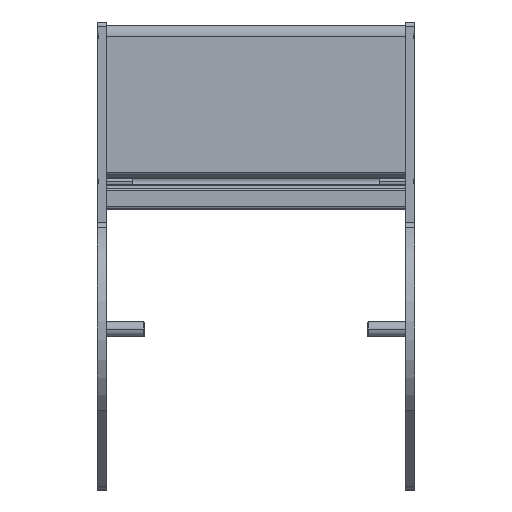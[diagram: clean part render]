
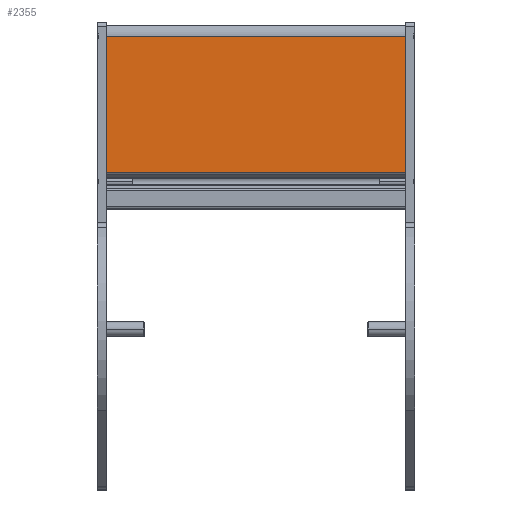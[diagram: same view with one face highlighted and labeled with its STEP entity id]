
A CAD part, top view. The second image highlights one B-rep face of the part: STEP entity #2355.
In plain terms, the highlighted planar face has unit normal (0, 0, 1) as drawn and (1, 0, 0) by its records, which use the part's own axes.
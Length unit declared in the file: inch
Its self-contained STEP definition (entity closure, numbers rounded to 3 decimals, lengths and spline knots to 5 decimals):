
#217=DIRECTION('',(0.,1.,0.));
#218=VECTOR('',#217,1.81445);
#219=CARTESIAN_POINT('',(0.683,-0.84545,-1.993));
#220=LINE('',#219,#218);
#343=DIRECTION('',(0.,1.,0.));
#344=VECTOR('',#343,1.81445);
#345=CARTESIAN_POINT('',(0.683,-0.84545,1.993));
#346=LINE('',#345,#344);
#674=DIRECTION('',(0.,0.,1.));
#675=VECTOR('',#674,3.986);
#676=CARTESIAN_POINT('',(0.683,0.969,-1.993));
#677=LINE('',#676,#675);
#687=DIRECTION('',(0.,0.,-1.));
#688=VECTOR('',#687,3.986);
#689=CARTESIAN_POINT('',(0.683,-0.84545,1.993));
#690=LINE('',#689,#688);
#1298=CARTESIAN_POINT('',(0.683,-0.84545,-1.993));
#1299=CARTESIAN_POINT('',(0.683,0.969,-1.993));
#1300=VERTEX_POINT('',#1298);
#1301=VERTEX_POINT('',#1299);
#1302=CARTESIAN_POINT('',(0.683,-0.84545,1.993));
#1303=CARTESIAN_POINT('',(0.683,0.969,1.993));
#1304=VERTEX_POINT('',#1302);
#1305=VERTEX_POINT('',#1303);
#2343=CARTESIAN_POINT('',(0.683,-0.86334,-1.993));
#2344=DIRECTION('',(1.,0.,0.));
#2345=DIRECTION('',(0.,1.,0.));
#2346=AXIS2_PLACEMENT_3D('',#2343,#2344,#2345);
#2347=PLANE('',#2346);
#2348=ORIENTED_EDGE('',*,*,#1667,.F.);
#2350=ORIENTED_EDGE('',*,*,#2349,.F.);
#2351=ORIENTED_EDGE('',*,*,#1774,.T.);
#2352=ORIENTED_EDGE('',*,*,#2336,.F.);
#2353=EDGE_LOOP('',(#2348,#2350,#2351,#2352));
#2354=FACE_OUTER_BOUND('',#2353,.F.);
#1667=EDGE_CURVE('',#1300,#1301,#220,.T.);
#1774=EDGE_CURVE('',#1304,#1305,#346,.T.);
#2336=EDGE_CURVE('',#1301,#1305,#677,.T.);
#2349=EDGE_CURVE('',#1304,#1300,#690,.T.);
#2355=ADVANCED_FACE('',(#2354),#2347,.T.);
